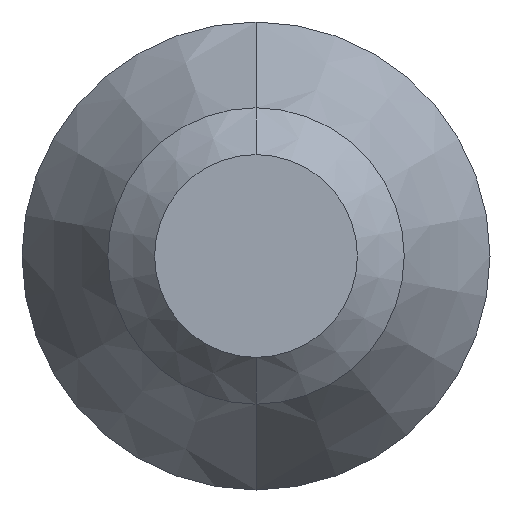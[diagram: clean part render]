
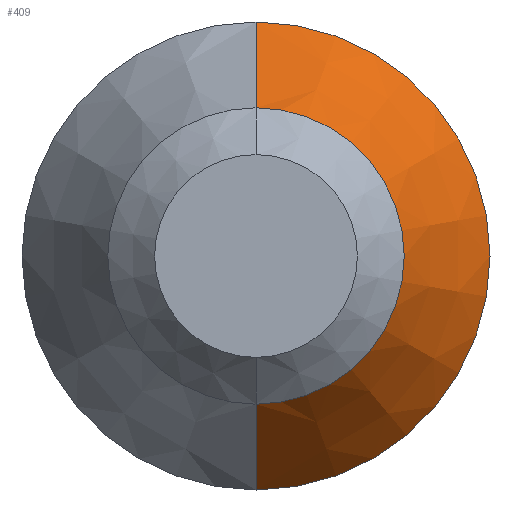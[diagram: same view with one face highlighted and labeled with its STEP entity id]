
A CAD part, front view. The second image highlights one B-rep face of the part: STEP entity #409.
In plain terms, the highlighted conical face has half-angle 30 degrees and reference radius 1.5 mm.
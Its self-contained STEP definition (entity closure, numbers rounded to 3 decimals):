
#13 = LINE ( 'NONE', #402, #641 ) ;
#21 = AXIS2_PLACEMENT_3D ( 'NONE', #358, #154, #561 ) ;
#59 = CARTESIAN_POINT ( 'NONE',  ( 0., 7., -1.5 ) ) ;
#71 = LINE ( 'NONE', #367, #150 ) ;
#73 = CARTESIAN_POINT ( 'NONE',  ( 0., 6.047, 0.95 ) ) ;
#106 = CARTESIAN_POINT ( 'NONE',  ( 0., 7., 0. ) ) ;
#113 = CIRCLE ( 'NONE', #21, 0.95 ) ;
#146 = CARTESIAN_POINT ( 'NONE',  ( 0., 6.047, -0.95 ) ) ;
#150 = VECTOR ( 'NONE', #454, 1000. ) ;
#154 = DIRECTION ( 'NONE',  ( 0., 1., 0. ) ) ;
#161 = FACE_OUTER_BOUND ( 'NONE', #633, .T. ) ;
#165 = DIRECTION ( 'NONE',  ( 0., 0., 1. ) ) ;
#167 = VERTEX_POINT ( 'NONE', #146 ) ;
#201 = CARTESIAN_POINT ( 'NONE',  ( 0., 7., 1.5 ) ) ;
#218 = DIRECTION ( 'NONE',  ( 0., 0., 1. ) ) ;
#245 = AXIS2_PLACEMENT_3D ( 'NONE', #653, #510, #165 ) ;
#287 = EDGE_CURVE ( 'NONE', #646, #562, #452, .T. ) ;
#300 = EDGE_CURVE ( 'NONE', #537, #646, #13, .T. ) ;
#323 = ORIENTED_EDGE ( 'NONE', *, *, #300, .F. ) ;
#340 = EDGE_CURVE ( 'NONE', #167, #562, #71, .T. ) ;
#345 = EDGE_CURVE ( 'NONE', #537, #167, #113, .T. ) ;
#351 = ORIENTED_EDGE ( 'NONE', *, *, #340, .T. ) ;
#355 = DIRECTION ( 'NONE',  ( 0., 0.866, 0.5 ) ) ;
#358 = CARTESIAN_POINT ( 'NONE',  ( 0., 6.047, 0. ) ) ;
#367 = CARTESIAN_POINT ( 'NONE',  ( 0., 7., -1.5 ) ) ;
#376 = ORIENTED_EDGE ( 'NONE', *, *, #345, .T. ) ;
#402 = CARTESIAN_POINT ( 'NONE',  ( 0., 7., 1.5 ) ) ;
#409 = ADVANCED_FACE ( 'NONE', ( #161 ), #542, .T. ) ;
#452 = CIRCLE ( 'NONE', #245, 1.5 ) ;
#454 = DIRECTION ( 'NONE',  ( 0., 0.866, -0.5 ) ) ;
#470 = DIRECTION ( 'NONE',  ( 0., 1., 0. ) ) ;
#510 = DIRECTION ( 'NONE',  ( 0., 1., 0. ) ) ;
#537 = VERTEX_POINT ( 'NONE', #73 ) ;
#542 = CONICAL_SURFACE ( 'NONE', #642, 1.5, 0.524 ) ;
#561 = DIRECTION ( 'NONE',  ( 0., 0., 1. ) ) ;
#562 = VERTEX_POINT ( 'NONE', #59 ) ;
#633 = EDGE_LOOP ( 'NONE', ( #376, #351, #648, #323 ) ) ;
#641 = VECTOR ( 'NONE', #355, 1000. ) ;
#642 = AXIS2_PLACEMENT_3D ( 'NONE', #106, #470, #218 ) ;
#646 = VERTEX_POINT ( 'NONE', #201 ) ;
#648 = ORIENTED_EDGE ( 'NONE', *, *, #287, .F. ) ;
#653 = CARTESIAN_POINT ( 'NONE',  ( 0., 7., 0. ) ) ;
